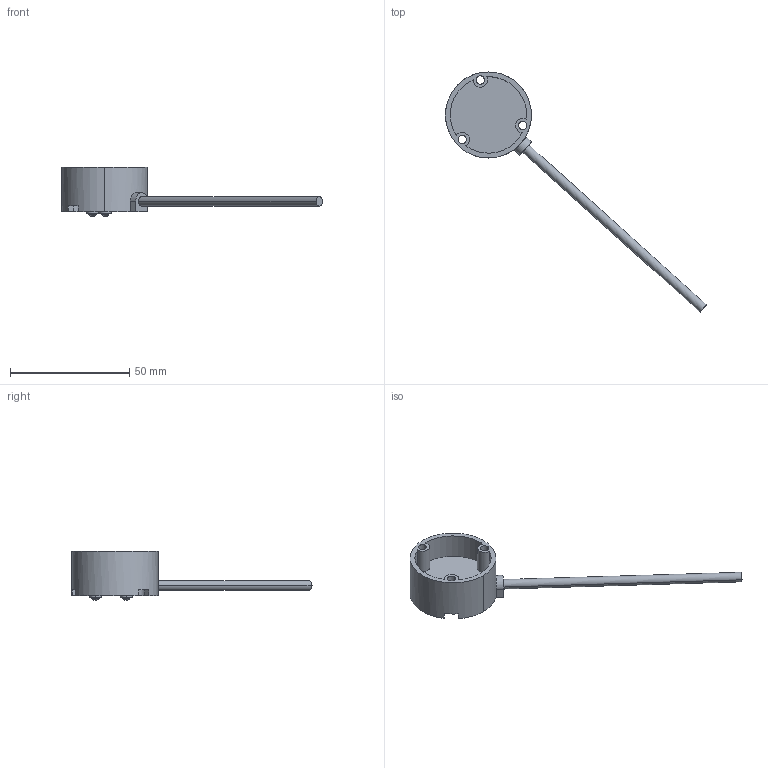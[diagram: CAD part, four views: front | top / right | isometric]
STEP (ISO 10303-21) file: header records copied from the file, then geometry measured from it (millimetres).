
FILE_DESCRIPTION (( 'STEP AP203' ), '1' );
FILE_NAME ('SU3.STEP', '2016-06-21T01:11:14', ( '' ), ( '' ), 'SwSTEP 2.0', 'SolidWorks 2014', '' );
FILE_SCHEMA (( 'CONFIG_CONTROL_DESIGN' ));
Length unit declared in the file: metre
Products named in the file (1): SU3
Bounding box: 109.26 x 100.45 x 20.6 mm (x, y, z)
Volume: 11769 mm3; surface area: 7367.1 mm2
Topology: 2 solids, 2 shells, 57 faces, 147 edges, 96 vertices
Faces by surface type: cylinder 33, plane 20, bspline 4
Entity records: 1884 total; most frequent: CARTESIAN_POINT 357, DIRECTION 331, ORIENTED_EDGE 286, EDGE_CURVE 143, AXIS2_PLACEMENT_3D 134, VERTEX_POINT 96, CIRCLE 80, EDGE_LOOP 69
